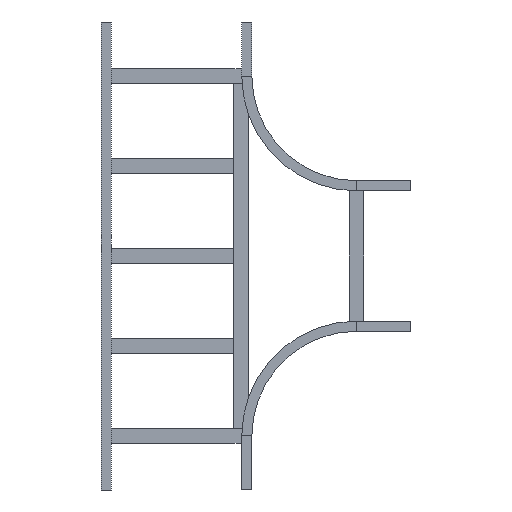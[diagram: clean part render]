
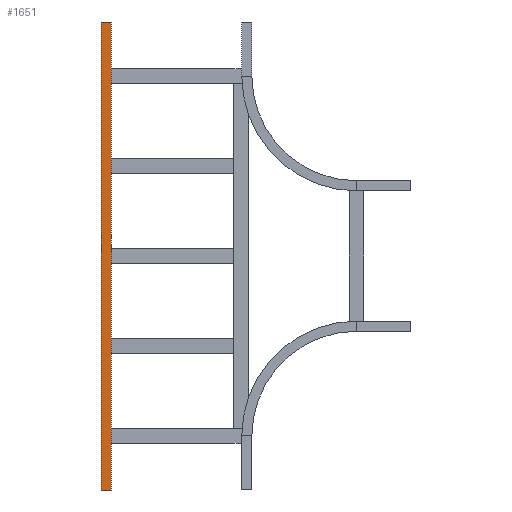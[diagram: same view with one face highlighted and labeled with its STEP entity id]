
A CAD part, front view. The second image highlights one B-rep face of the part: STEP entity #1651.
In plain terms, the highlighted planar face has unit normal (0, -1, 0).
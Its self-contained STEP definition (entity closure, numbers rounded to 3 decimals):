
#22 = DIRECTION ( 'NONE',  ( 0., -1., 0. ) ) ;
#226 = DIRECTION ( 'NONE',  ( 0., 0., 1. ) ) ;
#255 = CARTESIAN_POINT ( 'NONE',  ( 28., 0., -1300. ) ) ;
#270 = VECTOR ( 'NONE', #1108, 1000. ) ;
#278 = VERTEX_POINT ( 'NONE', #1756 ) ;
#320 = ORIENTED_EDGE ( 'NONE', *, *, #1890, .F. ) ;
#411 = CARTESIAN_POINT ( 'NONE',  ( 0., 0., -1300. ) ) ;
#462 = ORIENTED_EDGE ( 'NONE', *, *, #2851, .T. ) ;
#481 = VERTEX_POINT ( 'NONE', #1809 ) ;
#501 = LINE ( 'NONE', #950, #3171 ) ;
#608 = LINE ( 'NONE', #929, #270 ) ;
#850 = VERTEX_POINT ( 'NONE', #1080 ) ;
#856 = LINE ( 'NONE', #3168, #3100 ) ;
#923 = AXIS2_PLACEMENT_3D ( 'NONE', #255, #22, #2440 ) ;
#929 = CARTESIAN_POINT ( 'NONE',  ( 28., 0., 0. ) ) ;
#950 = CARTESIAN_POINT ( 'NONE',  ( 28., 0., -1300. ) ) ;
#1031 = ORIENTED_EDGE ( 'NONE', *, *, #1933, .F. ) ;
#1080 = CARTESIAN_POINT ( 'NONE',  ( 28., 0., 0. ) ) ;
#1108 = DIRECTION ( 'NONE',  ( 1., 0., 0. ) ) ;
#1167 = LINE ( 'NONE', #3181, #2201 ) ;
#1173 = EDGE_CURVE ( 'NONE', #1674, #481, #501, .T. ) ;
#1175 = DIRECTION ( 'NONE',  ( 0., 0., 1. ) ) ;
#1439 = PLANE ( 'NONE',  #923 ) ;
#1562 = ORIENTED_EDGE ( 'NONE', *, *, #1173, .T. ) ;
#1651 = ADVANCED_FACE ( 'NONE', ( #2189 ), #1439, .T. ) ;
#1674 = VERTEX_POINT ( 'NONE', #411 ) ;
#1756 = CARTESIAN_POINT ( 'NONE',  ( 0., 0., 0. ) ) ;
#1809 = CARTESIAN_POINT ( 'NONE',  ( 28., 0., -1300. ) ) ;
#1890 = EDGE_CURVE ( 'NONE', #1674, #278, #856, .T. ) ;
#1933 = EDGE_CURVE ( 'NONE', #278, #850, #608, .T. ) ;
#2189 = FACE_OUTER_BOUND ( 'NONE', #2866, .T. ) ;
#2201 = VECTOR ( 'NONE', #226, 1000. ) ;
#2440 = DIRECTION ( 'NONE',  ( 1., 0., 0. ) ) ;
#2467 = DIRECTION ( 'NONE',  ( 1., 0., 0. ) ) ;
#2851 = EDGE_CURVE ( 'NONE', #481, #850, #1167, .T. ) ;
#2866 = EDGE_LOOP ( 'NONE', ( #1031, #320, #1562, #462 ) ) ;
#3100 = VECTOR ( 'NONE', #1175, 1000. ) ;
#3168 = CARTESIAN_POINT ( 'NONE',  ( 0., 0., -1300. ) ) ;
#3171 = VECTOR ( 'NONE', #2467, 1000. ) ;
#3181 = CARTESIAN_POINT ( 'NONE',  ( 28., 0., -1300. ) ) ;
